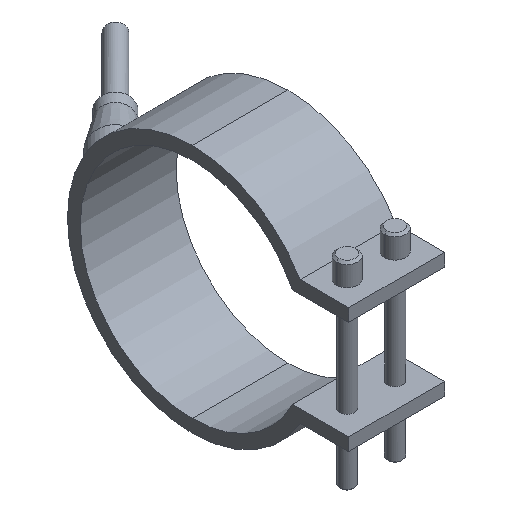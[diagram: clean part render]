
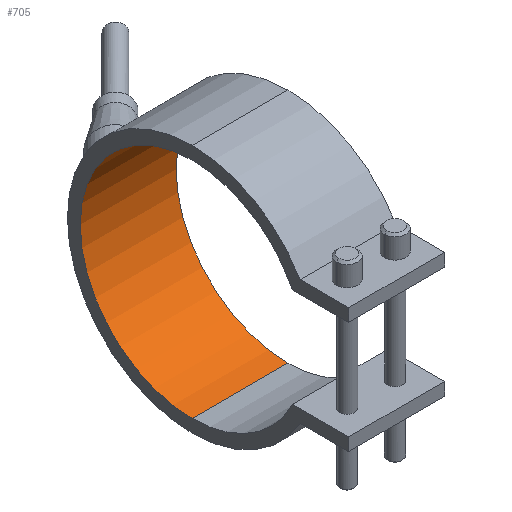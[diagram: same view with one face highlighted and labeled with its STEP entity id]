
A CAD part, isometric view. The second image highlights one B-rep face of the part: STEP entity #705.
In plain terms, the highlighted cylindrical face has radius 35 mm (diameter 70 mm), a partial arc.
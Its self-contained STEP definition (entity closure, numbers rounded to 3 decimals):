
#375=CARTESIAN_POINT('Vertex',(15.,0.,35.)) ;
#380=CARTESIAN_POINT('Axis2P3D Location',(15.,0.,0.)) ;
#384=CARTESIAN_POINT('Vertex',(15.,0.,-35.)) ;
#491=CARTESIAN_POINT('Vertex',(-15.,0.,-35.)) ;
#494=CARTESIAN_POINT('Axis2P3D Location',(-15.,0.,0.)) ;
#498=CARTESIAN_POINT('Vertex',(-15.,0.,35.)) ;
#677=CARTESIAN_POINT('Line Origine',(15.,0.,35.)) ;
#689=CARTESIAN_POINT('Axis2P3D Location',(15.,0.,0.)) ;
#694=CARTESIAN_POINT('Line Origine',(15.,0.,-35.)) ;
#381=DIRECTION('Axis2P3D Direction',(1.,0.,0.)) ;
#495=DIRECTION('Axis2P3D Direction',(1.,0.,0.)) ;
#678=DIRECTION('Vector Direction',(1.,0.,0.)) ;
#690=DIRECTION('Axis2P3D Direction',(1.,0.,-0.)) ;
#691=DIRECTION('Axis2P3D XDirection',(0.,0.,-1.)) ;
#695=DIRECTION('Vector Direction',(1.,0.,0.)) ;
#382=AXIS2_PLACEMENT_3D('Circle Axis2P3D',#380,#381,$) ;
#496=AXIS2_PLACEMENT_3D('Circle Axis2P3D',#494,#495,$) ;
#692=AXIS2_PLACEMENT_3D('Cylinder Axis2P3D',#689,#690,#691) ;
#700=ORIENTED_EDGE('',*,*,#386,.T.) ;
#701=ORIENTED_EDGE('',*,*,#681,.T.) ;
#702=ORIENTED_EDGE('',*,*,#500,.F.) ;
#703=ORIENTED_EDGE('',*,*,#698,.T.) ;
#679=VECTOR('Line Direction',#678,1.) ;
#696=VECTOR('Line Direction',#695,1.) ;
#705=ADVANCED_FACE('29070030',(#704),#693,.F.) ;
#383=CIRCLE('generated circle',#382,35.) ;
#497=CIRCLE('generated circle',#496,35.) ;
#693=CYLINDRICAL_SURFACE('generated cylinder',#692,35.) ;
#386=EDGE_CURVE('',#385,#376,#383,.T.) ;
#500=EDGE_CURVE('',#492,#499,#497,.T.) ;
#681=EDGE_CURVE('',#376,#499,#680,.F.) ;
#698=EDGE_CURVE('',#492,#385,#697,.T.) ;
#699=EDGE_LOOP('',(#700,#701,#702,#703)) ;
#704=FACE_OUTER_BOUND('',#699,.T.) ;
#680=LINE('Line',#677,#679) ;
#697=LINE('Line',#694,#696) ;
#376=VERTEX_POINT('',#375) ;
#385=VERTEX_POINT('',#384) ;
#492=VERTEX_POINT('',#491) ;
#499=VERTEX_POINT('',#498) ;
